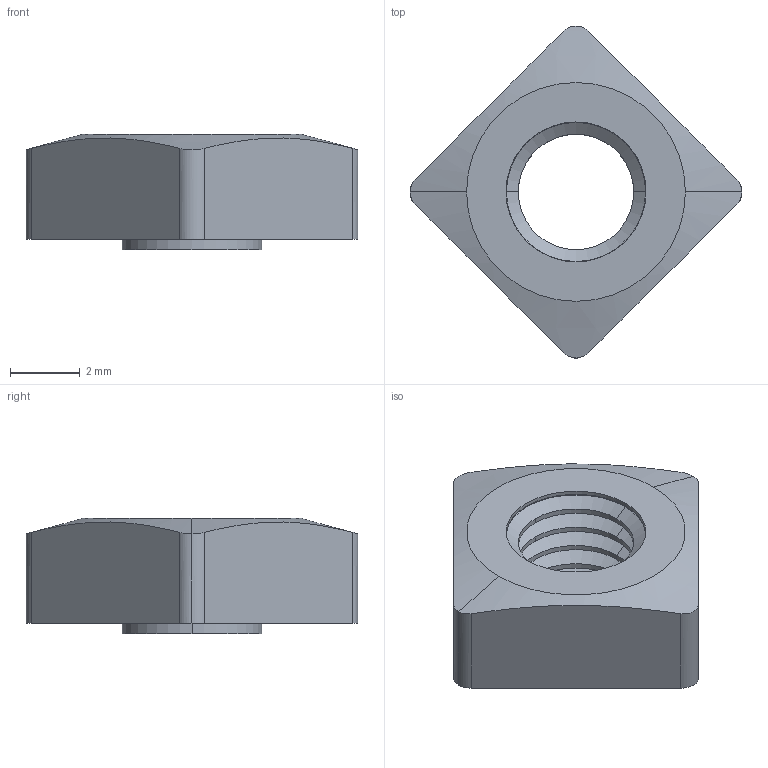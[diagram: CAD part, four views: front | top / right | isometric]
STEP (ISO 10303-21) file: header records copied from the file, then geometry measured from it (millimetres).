
FILE_DESCRIPTION (( 'STEP AP203' ), '1' );
FILE_NAME ('PN4M4.STEP', '2024-02-17T06:10:32', ( '' ), ( '' ), 'SwSTEP 2.0', 'SolidWorks 2022', '' );
FILE_SCHEMA (( 'CONFIG_CONTROL_DESIGN' ));
Length unit declared in the file: millimetre
Products named in the file (1): PN4M4
Bounding box: 9.49 x 9.49 x 3.29 mm (x, y, z)
Volume: 114 mm3; surface area: 210.1 mm2
Topology: 1 solids, 1 shells, 52 faces, 124 edges, 74 vertices
Faces by surface type: cone 26, cylinder 20, plane 6
Entity records: 1603 total; most frequent: CARTESIAN_POINT 293, DIRECTION 280, ORIENTED_EDGE 248, EDGE_CURVE 124, AXIS2_PLACEMENT_3D 113, VERTEX_POINT 74, CIRCLE 60, EDGE_LOOP 54
